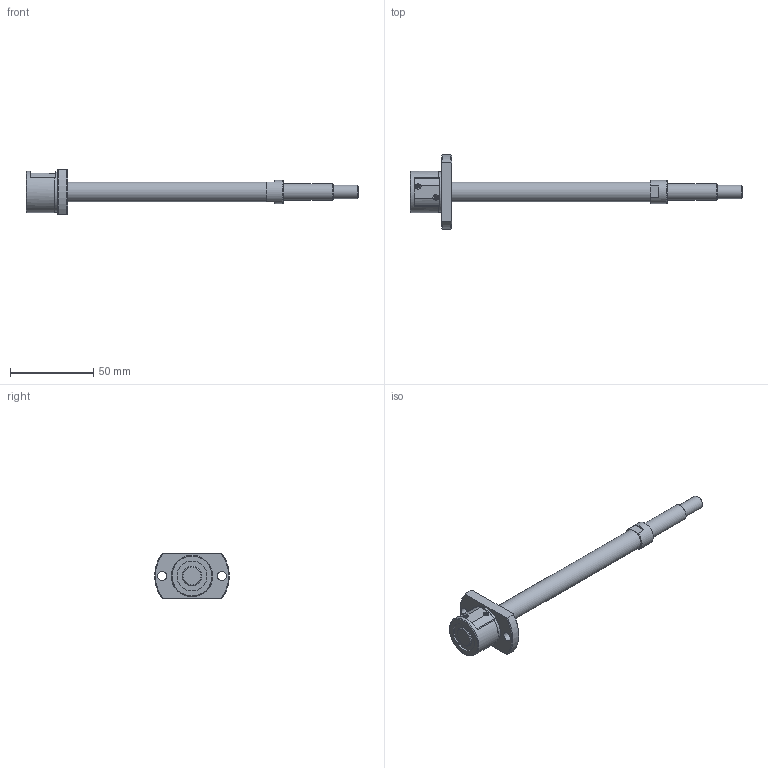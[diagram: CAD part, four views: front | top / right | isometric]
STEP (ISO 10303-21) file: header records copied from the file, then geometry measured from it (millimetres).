
FILE_DESCRIPTION( ( 'STEP AP203' ), '1' );
FILE_NAME( 'e:/temp/worker_98/temp/exporttempdir_5688_557_XeDxo/format_0/SG1202-141R200C3A1X(0).stp', '2021-10-19T00:45:43', ( 'License CC BY-ND 4.0' ), ( 'CADENAS' ), ' ', 'PARTsolutions', ' ' );
FILE_SCHEMA( ( 'CONFIG_CONTROL_DESIGN' ) );
Length unit declared in the file: millimetre
Products named in the file (3): SG1202-141R200C3A1X(0); _SG1202-141R200C3A_shaft; _SG1202_nut
Assembly tree (2 placements, depth 2):
  SG1202-141R200C3A1X(0)
    _SG1202-141R200C3A_shaft
    _SG1202_nut
Bounding box: 200 x 45 x 27 mm (x, y, z)
Volume: 33446.8 mm3; surface area: 12915.1 mm2
Topology: 2 solids, 2 shells, 72 faces, 177 edges, 116 vertices
Faces by surface type: plane 35, cylinder 23, cone 13, torus 1
Full cylindrical faces by diameter (mm): 5.5 x2, 8 x1, 10 x1, 12 x2, 14 x1, 18 x2, 24.5 x1, 25 x1
Entity records: 2112 total; most frequent: CARTESIAN_POINT 409, DIRECTION 346, ORIENTED_EDGE 292, EDGE_CURVE 146, AXIS2_PLACEMENT_3D 143, EDGE_LOOP 106, VERTEX_POINT 106, FACE_OUTER_BOUND 84
